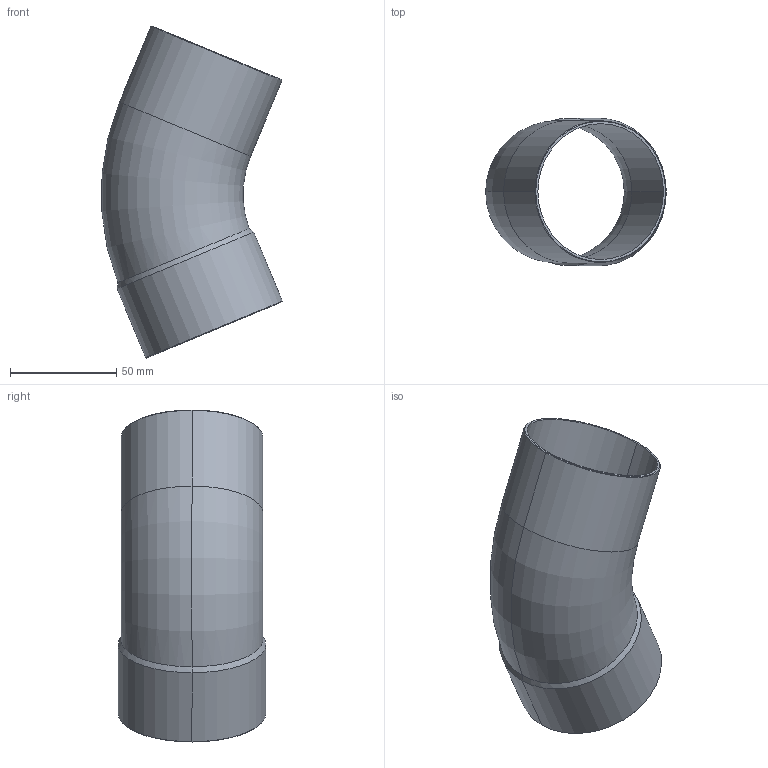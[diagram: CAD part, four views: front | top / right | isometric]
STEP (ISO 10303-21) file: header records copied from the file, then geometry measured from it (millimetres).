
FILE_DESCRIPTION((''),'2;1');
FILE_NAME('P:\Bouwmaten\z-maattekeningen 3D\5000\5040\1504067.stp','2005-10-05T11:54:19',('Kris'),(''),'Autodesk Inventor 8','Autodesk Inventor 8','');
FILE_SCHEMA(('AUTOMOTIVE_DESIGN { 1 0 10303 214 1 1 1 1 }'));
Length unit declared in the file: millimetre
Products named in the file (1): 1504067
Bounding box: 84.89 x 69.5 x 156.1 mm (x, y, z)
Volume: 40036 mm3; surface area: 57709.8 mm2
Topology: 1 solids, 1 shells, 24 faces, 50 edges, 28 vertices
Faces by surface type: cone 10, cylinder 8, torus 4, plane 2
Entity records: 729 total; most frequent: CARTESIAN_POINT 179, DIRECTION 124, ORIENTED_EDGE 100, AXIS2_PLACEMENT_3D 53, EDGE_CURVE 50, VERTEX_POINT 28, CIRCLE 28, EDGE_LOOP 26
